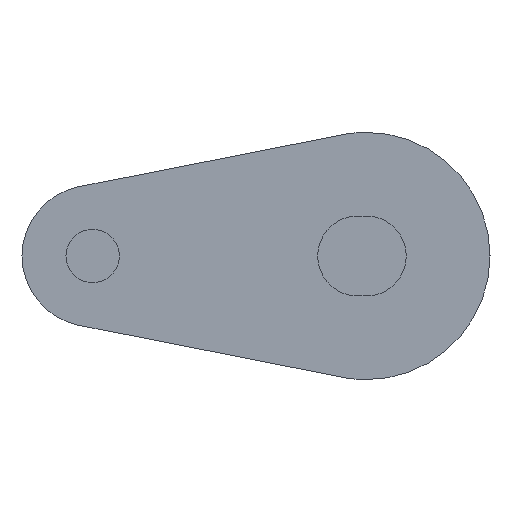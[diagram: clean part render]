
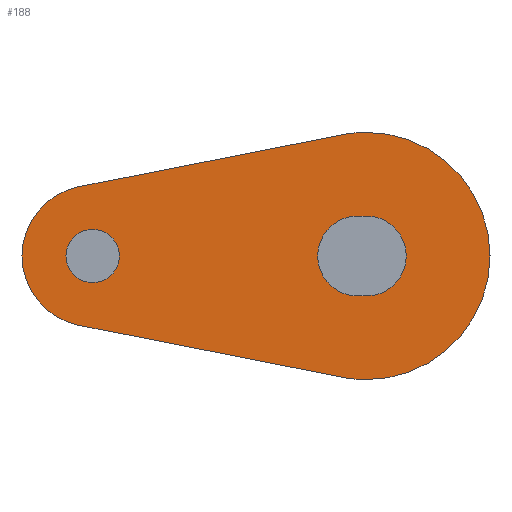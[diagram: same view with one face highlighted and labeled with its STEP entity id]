
A CAD part, left-side view. The second image highlights one B-rep face of the part: STEP entity #188.
In plain terms, the highlighted planar face has unit normal (-1, 0, 0).
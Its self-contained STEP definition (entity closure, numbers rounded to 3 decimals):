
#12 = EDGE_CURVE ( 'NONE', #530, #510, #441, .T. ) ;
#15 = AXIS2_PLACEMENT_3D ( 'NONE', #814, #974, #973 ) ;
#23 = AXIS2_PLACEMENT_3D ( 'NONE', #611, #629, #601 ) ;
#24 = EDGE_CURVE ( 'NONE', #529, #530, #331, .T. ) ;
#25 = AXIS2_PLACEMENT_3D ( 'NONE', #587, #598, #585 ) ;
#29 = EDGE_CURVE ( 'NONE', #497, #580, #322, .T. ) ;
#35 = AXIS2_PLACEMENT_3D ( 'NONE', #605, #606, #604 ) ;
#45 = AXIS2_PLACEMENT_3D ( 'NONE', #477, #858, #859 ) ;
#54 = EDGE_CURVE ( 'NONE', #582, #533, #294, .T. ) ;
#58 = EDGE_CURVE ( 'NONE', #542, #584, #293, .T. ) ;
#59 = EDGE_CURVE ( 'NONE', #531, #582, #289, .T. ) ;
#76 = EDGE_CURVE ( 'NONE', #510, #531, #275, .T. ) ;
#83 = AXIS2_PLACEMENT_3D ( 'NONE', #475, #807, #808 ) ;
#99 = EDGE_CURVE ( 'NONE', #584, #525, #264, .T. ) ;
#107 = EDGE_CURVE ( 'NONE', #528, #542, #259, .T. ) ;
#120 = AXIS2_PLACEMENT_3D ( 'NONE', #566, #565, #564 ) ;
#125 = AXIS2_PLACEMENT_3D ( 'NONE', #575, #574, #572 ) ;
#126 = EDGE_CURVE ( 'NONE', #580, #497, #244, .T. ) ;
#127 = EDGE_CURVE ( 'NONE', #533, #529, #260, .T. ) ;
#157 = AXIS2_PLACEMENT_3D ( 'NONE', #935, #934, #933 ) ;
#166 = EDGE_CURVE ( 'NONE', #525, #528, #213, .T. ) ;
#188 = ADVANCED_FACE ( 'NONE', ( #468, #469, #463 ), #936, .T. ) ;
#213 = LINE ( 'NONE', #803, #1051 ) ;
#244 = CIRCLE ( 'NONE', #15, 1.51 ) ;
#247 = VECTOR ( 'NONE', #967, 1000. ) ;
#259 = CIRCLE ( 'NONE', #45, 2.26 ) ;
#260 = LINE ( 'NONE', #969, #247 ) ;
#264 = CIRCLE ( 'NONE', #83, 2.26 ) ;
#275 = CIRCLE ( 'NONE', #23, 7. ) ;
#289 = CIRCLE ( 'NONE', #35, 7. ) ;
#293 = LINE ( 'NONE', #597, #297 ) ;
#294 = CIRCLE ( 'NONE', #25, 7. ) ;
#297 = VECTOR ( 'NONE', #608, 1000. ) ;
#322 = CIRCLE ( 'NONE', #125, 1.51 ) ;
#331 = CIRCLE ( 'NONE', #120, 4. ) ;
#433 = EDGE_LOOP ( 'NONE', ( #695, #706 ) ) ;
#435 = EDGE_LOOP ( 'NONE', ( #707, #708, #721, #723, #696, #670 ) ) ;
#440 = EDGE_LOOP ( 'NONE', ( #728, #727, #685, #678 ) ) ;
#441 = LINE ( 'NONE', #517, #442 ) ;
#442 = VECTOR ( 'NONE', #515, 1000. ) ;
#463 = FACE_OUTER_BOUND ( 'NONE', #435, .T. ) ;
#468 = FACE_BOUND ( 'NONE', #440, .T. ) ;
#469 = FACE_BOUND ( 'NONE', #433, .T. ) ;
#475 = CARTESIAN_POINT ( 'NONE',  ( -254.5, 0.5, 0. ) ) ;
#477 = CARTESIAN_POINT ( 'NONE',  ( -254.5, 0., 0. ) ) ;
#497 = VERTEX_POINT ( 'NONE', #800 ) ;
#510 = VERTEX_POINT ( 'NONE', #793 ) ;
#515 = DIRECTION ( 'NONE',  ( 0., -0.981, 0.194 ) ) ;
#517 = CARTESIAN_POINT ( 'NONE',  ( -254.5, 16.274, 3.924 ) ) ;
#525 = VERTEX_POINT ( 'NONE', #777 ) ;
#528 = VERTEX_POINT ( 'NONE', #774 ) ;
#529 = VERTEX_POINT ( 'NONE', #773 ) ;
#530 = VERTEX_POINT ( 'NONE', #772 ) ;
#531 = VERTEX_POINT ( 'NONE', #771 ) ;
#533 = VERTEX_POINT ( 'NONE', #769 ) ;
#542 = VERTEX_POINT ( 'NONE', #767 ) ;
#564 = DIRECTION ( 'NONE',  ( 0., 0., -1. ) ) ;
#565 = DIRECTION ( 'NONE',  ( 1., 0., 0. ) ) ;
#566 = CARTESIAN_POINT ( 'NONE',  ( -254.5, 15.5, 0. ) ) ;
#572 = DIRECTION ( 'NONE',  ( 0., 0., -1. ) ) ;
#574 = DIRECTION ( 'NONE',  ( 1., 0., 0. ) ) ;
#575 = CARTESIAN_POINT ( 'NONE',  ( -254.5, 15.5, 0. ) ) ;
#580 = VERTEX_POINT ( 'NONE', #751 ) ;
#582 = VERTEX_POINT ( 'NONE', #748 ) ;
#584 = VERTEX_POINT ( 'NONE', #747 ) ;
#585 = DIRECTION ( 'NONE',  ( 0., 0., -1. ) ) ;
#587 = CARTESIAN_POINT ( 'NONE',  ( -254.5, 0., 0. ) ) ;
#597 = CARTESIAN_POINT ( 'NONE',  ( -254.5, 0.5, -2.26 ) ) ;
#598 = DIRECTION ( 'NONE',  ( 1., 0., 0. ) ) ;
#601 = DIRECTION ( 'NONE',  ( 0., 0., -1. ) ) ;
#604 = DIRECTION ( 'NONE',  ( 0., 0., -1. ) ) ;
#605 = CARTESIAN_POINT ( 'NONE',  ( -254.5, 0., 0. ) ) ;
#606 = DIRECTION ( 'NONE',  ( 1., 0., 0. ) ) ;
#608 = DIRECTION ( 'NONE',  ( 0., 1., 0. ) ) ;
#611 = CARTESIAN_POINT ( 'NONE',  ( -254.5, 0., 0. ) ) ;
#629 = DIRECTION ( 'NONE',  ( 1., 0., 0. ) ) ;
#670 = ORIENTED_EDGE ( 'NONE', *, *, #12, .F. ) ;
#678 = ORIENTED_EDGE ( 'NONE', *, *, #58, .T. ) ;
#685 = ORIENTED_EDGE ( 'NONE', *, *, #107, .T. ) ;
#695 = ORIENTED_EDGE ( 'NONE', *, *, #126, .T. ) ;
#696 = ORIENTED_EDGE ( 'NONE', *, *, #76, .F. ) ;
#706 = ORIENTED_EDGE ( 'NONE', *, *, #29, .T. ) ;
#707 = ORIENTED_EDGE ( 'NONE', *, *, #24, .F. ) ;
#708 = ORIENTED_EDGE ( 'NONE', *, *, #127, .F. ) ;
#721 = ORIENTED_EDGE ( 'NONE', *, *, #54, .F. ) ;
#723 = ORIENTED_EDGE ( 'NONE', *, *, #59, .F. ) ;
#727 = ORIENTED_EDGE ( 'NONE', *, *, #166, .T. ) ;
#728 = ORIENTED_EDGE ( 'NONE', *, *, #99, .T. ) ;
#747 = CARTESIAN_POINT ( 'NONE',  ( -254.5, 0.5, -2.26 ) ) ;
#748 = CARTESIAN_POINT ( 'NONE',  ( -254.5, 0., -7. ) ) ;
#751 = CARTESIAN_POINT ( 'NONE',  ( -254.5, 15.5, -1.51 ) ) ;
#767 = CARTESIAN_POINT ( 'NONE',  ( -254.5, 0., -2.26 ) ) ;
#769 = CARTESIAN_POINT ( 'NONE',  ( -254.5, 1.355, -6.868 ) ) ;
#771 = CARTESIAN_POINT ( 'NONE',  ( -254.5, 0., 7. ) ) ;
#772 = CARTESIAN_POINT ( 'NONE',  ( -254.5, 16.274, 3.924 ) ) ;
#773 = CARTESIAN_POINT ( 'NONE',  ( -254.5, 16.274, -3.924 ) ) ;
#774 = CARTESIAN_POINT ( 'NONE',  ( -254.5, 0., 2.26 ) ) ;
#777 = CARTESIAN_POINT ( 'NONE',  ( -254.5, 0.5, 2.26 ) ) ;
#793 = CARTESIAN_POINT ( 'NONE',  ( -254.5, 1.355, 6.868 ) ) ;
#800 = CARTESIAN_POINT ( 'NONE',  ( -254.5, 15.5, 1.51 ) ) ;
#802 = DIRECTION ( 'NONE',  ( 0., -1., 0. ) ) ;
#803 = CARTESIAN_POINT ( 'NONE',  ( -254.5, 0.5, 2.26 ) ) ;
#807 = DIRECTION ( 'NONE',  ( 1., 0., 0. ) ) ;
#808 = DIRECTION ( 'NONE',  ( 0., 0., -1. ) ) ;
#814 = CARTESIAN_POINT ( 'NONE',  ( -254.5, 15.5, 0. ) ) ;
#858 = DIRECTION ( 'NONE',  ( 1., 0., 0. ) ) ;
#859 = DIRECTION ( 'NONE',  ( 0., 0., -1. ) ) ;
#933 = DIRECTION ( 'NONE',  ( 0., 0., -1. ) ) ;
#934 = DIRECTION ( 'NONE',  ( -1., 0., 0. ) ) ;
#935 = CARTESIAN_POINT ( 'NONE',  ( -254.5, 15.5, 0. ) ) ;
#936 = PLANE ( 'NONE',  #157 ) ;
#967 = DIRECTION ( 'NONE',  ( 0., 0.981, 0.194 ) ) ;
#969 = CARTESIAN_POINT ( 'NONE',  ( -254.5, 1.355, -6.868 ) ) ;
#973 = DIRECTION ( 'NONE',  ( 0., 0., -1. ) ) ;
#974 = DIRECTION ( 'NONE',  ( 1., 0., 0. ) ) ;
#1051 = VECTOR ( 'NONE', #802, 1000. ) ;
